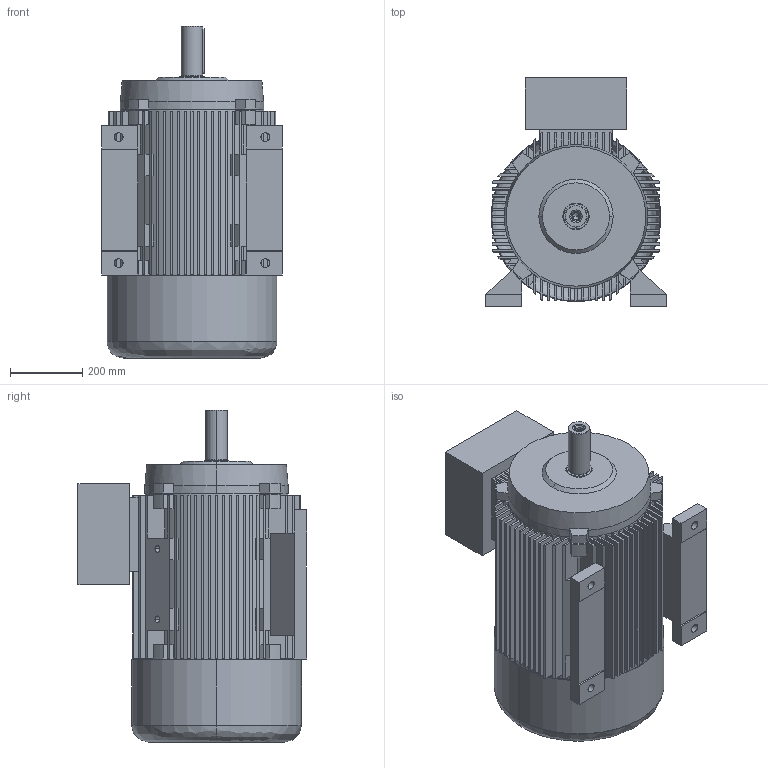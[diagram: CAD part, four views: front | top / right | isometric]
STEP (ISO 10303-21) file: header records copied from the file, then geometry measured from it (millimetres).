
FILE_DESCRIPTION (( 'STEP AP203' ), '1' );
FILE_NAME ('20.17509_A 7AT 250M -2 B3.STEP', '2018-04-11T05:35:39', ( '' ), ( '' ), 'SwSTEP 2.0', 'SolidWorks 2017', '' );
FILE_SCHEMA (( 'CONFIG_CONTROL_DESIGN' ));
Length unit declared in the file: millimetre
Products named in the file (1): 20.17509_A 7AT 250M -2 B3
Bounding box: 500 x 636 x 920 mm (x, y, z)
Volume: 47881261.6 mm3; surface area: 6171935 mm2
Topology: 9 solids, 9 shells, 814 faces, 2181 edges, 1433 vertices
Faces by surface type: plane 645, cylinder 118, cone 38, bspline 13
Entity records: 25965 total; most frequent: CARTESIAN_POINT 5256, ORIENTED_EDGE 4326, DIRECTION 4221, EDGE_CURVE 2163, VECTOR 1625, LINE 1625, VERTEX_POINT 1433, AXIS2_PLACEMENT_3D 1298
